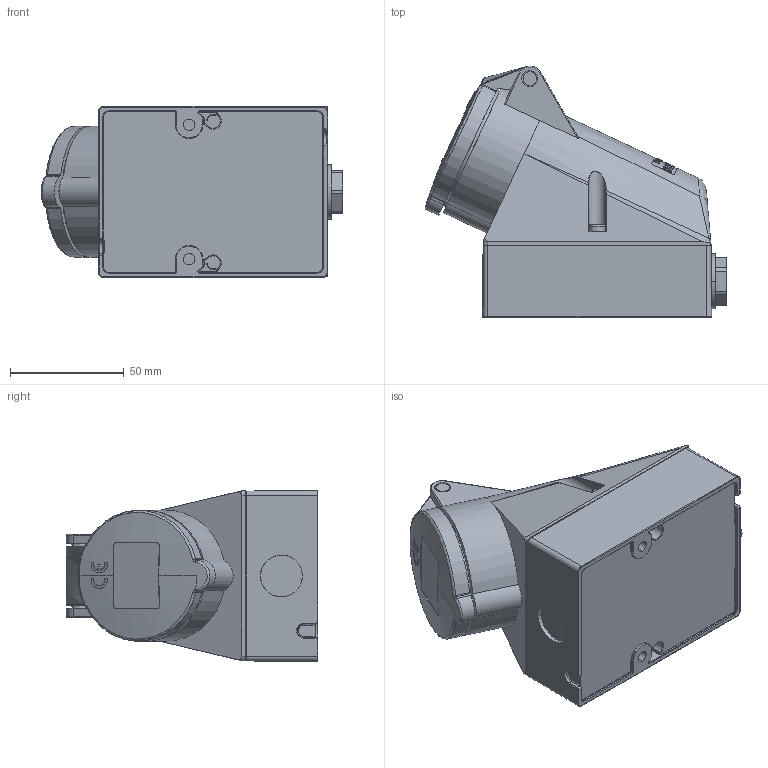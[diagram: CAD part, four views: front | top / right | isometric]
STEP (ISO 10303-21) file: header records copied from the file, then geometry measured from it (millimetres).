
FILE_DESCRIPTION((''),'2;1');
FILE_NAME('1113723_ASM_SW0001','2017-11-13T',('gisse'),('MENNEKES'),'PRO/ENGINEER BY PARAMETRIC TECHNOLOGY CORPORATION, 2015440','PRO/ENGINEER BY PARAMETRIC TECHNOLOGY CORPORATION, 2015440','');
FILE_SCHEMA(('AUTOMOTIVE_DESIGN { 1 0 10303 214 1 1 1 1 }'));
Length unit declared in the file: millimetre
Products named in the file (1): 1113723_ASM_SW0001
Bounding box: 132.28 x 110.38 x 75.05 mm (x, y, z)
Volume: 547332.1 mm3; surface area: 49139.2 mm2
Topology: 1 solids, 1 shells, 911 faces, 2370 edges, 1502 vertices
Faces by surface type: plane 319, extrusion 188, cylinder 175, bspline 131, torus 46, cone 34, sphere 18
Entity records: 45118 total; most frequent: CARTESIAN_POINT 14796, ORIENTED_EDGE 4732, DIRECTION 3104, EDGE_CURVE 2366, VERTEX_POINT 1502, FILL_AREA_STYLE_COLOUR 1498, FILL_AREA_STYLE 1498, SURFACE_STYLE_FILL_AREA 1498
